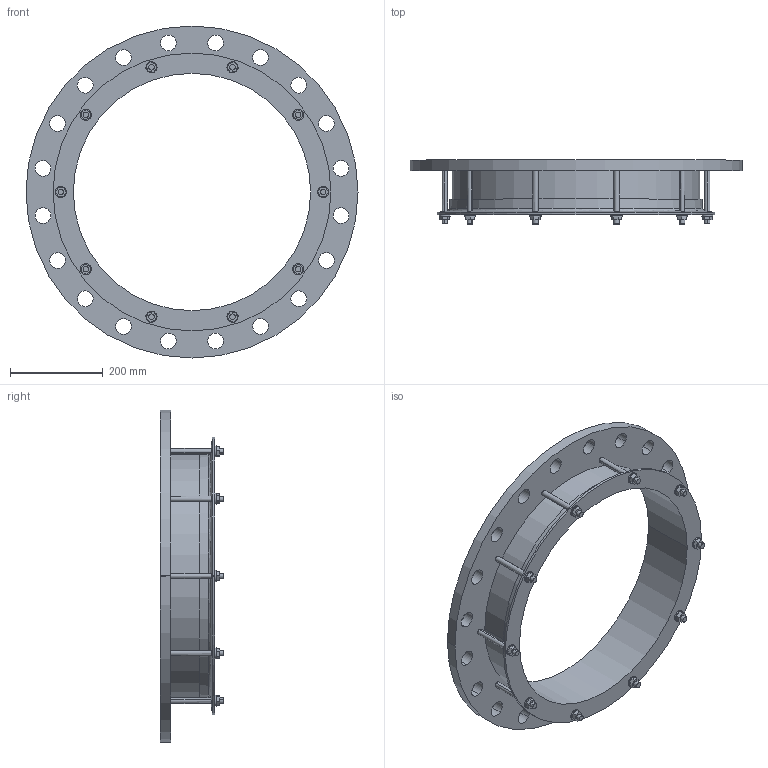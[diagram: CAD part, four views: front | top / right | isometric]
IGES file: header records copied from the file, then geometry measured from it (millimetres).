
Start section:  PTC IGES file: 508x500pn16.igs
Global section: file name: 508x500pn16.igs; native system: Creo Parametric by PTC Inc.; preprocessor: 2016130; author: mfairey; organization: Unknown; date: 20190116.133528; units: millimetre
Bounding box: 715 x 137.45 x 715 mm (x, y, z)
Surface area: 952587.4 mm2 (no closed solid volume)
Topology: 0 solids, 0 shells, 208 faces, 1096 edges, 1096 vertices
Faces by surface type: revolution 114, bspline 94
